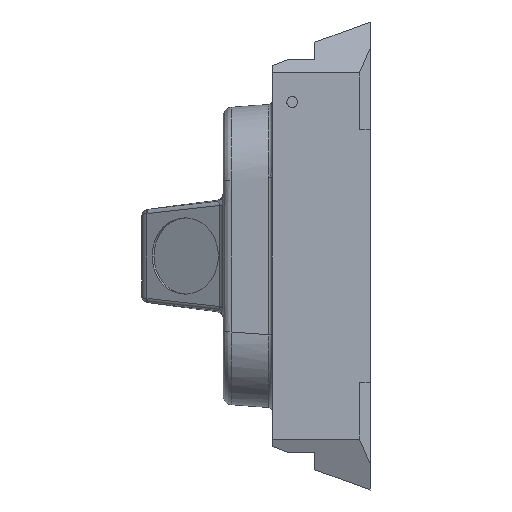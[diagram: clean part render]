
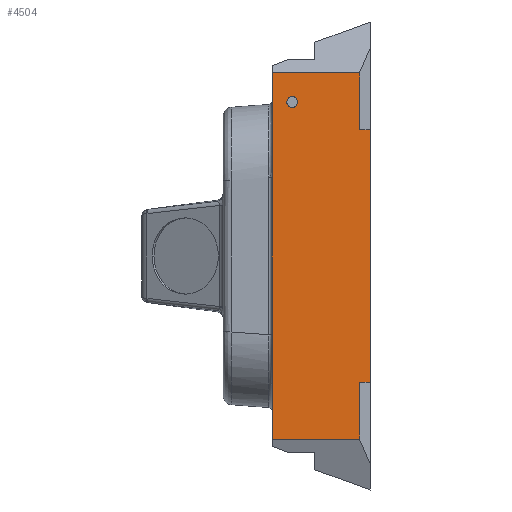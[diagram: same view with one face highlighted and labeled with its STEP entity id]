
A CAD part, left-side view. The second image highlights one B-rep face of the part: STEP entity #4504.
In plain terms, the highlighted planar face has unit normal (-1, 0, 0).
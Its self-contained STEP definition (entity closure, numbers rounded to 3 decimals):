
#55 = DIRECTION ( 'NONE',  ( 0., -1., 0. ) ) ;
#321 = FACE_OUTER_BOUND ( 'NONE', #1956, .T. ) ;
#335 = DIRECTION ( 'NONE',  ( 0., -1., 0. ) ) ;
#362 = CARTESIAN_POINT ( 'NONE',  ( 0., 3., -29.6 ) ) ;
#501 = VECTOR ( 'NONE', #4432, 1000. ) ;
#514 = AXIS2_PLACEMENT_3D ( 'NONE', #3684, #1960, #3796 ) ;
#550 = VERTEX_POINT ( 'NONE', #4840 ) ;
#567 = EDGE_CURVE ( 'NONE', #577, #7006, #4283, .T. ) ;
#576 = CIRCLE ( 'NONE', #6794, 1.5 ) ;
#577 = VERTEX_POINT ( 'NONE', #10305 ) ;
#748 = VERTEX_POINT ( 'NONE', #362 ) ;
#764 = ORIENTED_EDGE ( 'NONE', *, *, #8401, .T. ) ;
#813 = ORIENTED_EDGE ( 'NONE', *, *, #10660, .F. ) ;
#981 = CARTESIAN_POINT ( 'NONE',  ( 0., 3., -99. ) ) ;
#1181 = LINE ( 'NONE', #5532, #2370 ) ;
#1521 = VECTOR ( 'NONE', #55, 1000. ) ;
#1842 = DIRECTION ( 'NONE',  ( 0., 0., -1. ) ) ;
#1853 = AXIS2_PLACEMENT_3D ( 'NONE', #4276, #10134, #3452 ) ;
#1956 = EDGE_LOOP ( 'NONE', ( #813, #4216, #4981, #4100, #764, #7646, #2328, #2216 ) ) ;
#1960 = DIRECTION ( 'NONE',  ( -1., 0., 0. ) ) ;
#2086 = EDGE_LOOP ( 'NONE', ( #4208, #5298 ) ) ;
#2212 = CIRCLE ( 'NONE', #1853, 1.5 ) ;
#2216 = ORIENTED_EDGE ( 'NONE', *, *, #5502, .T. ) ;
#2328 = ORIENTED_EDGE ( 'NONE', *, *, #10651, .F. ) ;
#2370 = VECTOR ( 'NONE', #335, 1000. ) ;
#2525 = CARTESIAN_POINT ( 'NONE',  ( 0., 0., -99. ) ) ;
#2581 = CARTESIAN_POINT ( 'NONE',  ( 0., 0., -2.3 ) ) ;
#2808 = DIRECTION ( 'NONE',  ( 0., 0., 1. ) ) ;
#2961 = DIRECTION ( 'NONE',  ( 0., 0., 1. ) ) ;
#3155 = VECTOR ( 'NONE', #6686, 1000. ) ;
#3322 = EDGE_CURVE ( 'NONE', #7205, #9404, #1181, .T. ) ;
#3423 = LINE ( 'NONE', #7499, #1521 ) ;
#3425 = VECTOR ( 'NONE', #1842, 1000. ) ;
#3452 = DIRECTION ( 'NONE',  ( 0., 0., 1. ) ) ;
#3553 = EDGE_CURVE ( 'NONE', #550, #4774, #576, .T. ) ;
#3684 = CARTESIAN_POINT ( 'NONE',  ( 0., 0., 0. ) ) ;
#3796 = DIRECTION ( 'NONE',  ( 0., 0., 1. ) ) ;
#4006 = LINE ( 'NONE', #8314, #4249 ) ;
#4055 = VERTEX_POINT ( 'NONE', #4975 ) ;
#4100 = ORIENTED_EDGE ( 'NONE', *, *, #6414, .T. ) ;
#4208 = ORIENTED_EDGE ( 'NONE', *, *, #3553, .F. ) ;
#4216 = ORIENTED_EDGE ( 'NONE', *, *, #10049, .F. ) ;
#4249 = VECTOR ( 'NONE', #5117, 1000. ) ;
#4276 = CARTESIAN_POINT ( 'NONE',  ( 0., 21.5, -22. ) ) ;
#4283 = LINE ( 'NONE', #2581, #3425 ) ;
#4379 = LINE ( 'NONE', #10290, #4425 ) ;
#4425 = VECTOR ( 'NONE', #8630, 1000. ) ;
#4432 = DIRECTION ( 'NONE',  ( 0., 0., -1. ) ) ;
#4495 = CARTESIAN_POINT ( 'NONE',  ( 0., 3., -99. ) ) ;
#4497 = CARTESIAN_POINT ( 'NONE',  ( 0., 3., -14. ) ) ;
#4504 = ADVANCED_FACE ( 'NONE', ( #321, #6229 ), #9486, .T. ) ;
#4604 = DIRECTION ( 'NONE',  ( -1., 0., 0. ) ) ;
#4618 = CARTESIAN_POINT ( 'NONE',  ( 0., 27., -14. ) ) ;
#4671 = VERTEX_POINT ( 'NONE', #4495 ) ;
#4774 = VERTEX_POINT ( 'NONE', #4944 ) ;
#4840 = CARTESIAN_POINT ( 'NONE',  ( 0., 21.5, -20.5 ) ) ;
#4944 = CARTESIAN_POINT ( 'NONE',  ( 0., 21.5, -23.5 ) ) ;
#4975 = CARTESIAN_POINT ( 'NONE',  ( 0., 27., -114.6 ) ) ;
#4981 = ORIENTED_EDGE ( 'NONE', *, *, #567, .F. ) ;
#5117 = DIRECTION ( 'NONE',  ( 0., 1., 0. ) ) ;
#5298 = ORIENTED_EDGE ( 'NONE', *, *, #8568, .F. ) ;
#5502 = EDGE_CURVE ( 'NONE', #4055, #10213, #3423, .T. ) ;
#5515 = LINE ( 'NONE', #6336, #10748 ) ;
#5532 = CARTESIAN_POINT ( 'NONE',  ( 0., 58.5, -14. ) ) ;
#5975 = CARTESIAN_POINT ( 'NONE',  ( 0., 0., -29.6 ) ) ;
#6229 = FACE_BOUND ( 'NONE', #2086, .T. ) ;
#6336 = CARTESIAN_POINT ( 'NONE',  ( 0., 3., -29.6 ) ) ;
#6414 = EDGE_CURVE ( 'NONE', #577, #748, #6741, .T. ) ;
#6686 = DIRECTION ( 'NONE',  ( 0., 1., 0. ) ) ;
#6741 = LINE ( 'NONE', #5975, #3155 ) ;
#6794 = AXIS2_PLACEMENT_3D ( 'NONE', #8852, #4604, #2961 ) ;
#7006 = VERTEX_POINT ( 'NONE', #2525 ) ;
#7205 = VERTEX_POINT ( 'NONE', #4618 ) ;
#7499 = CARTESIAN_POINT ( 'NONE',  ( 0., 58.5, -114.6 ) ) ;
#7646 = ORIENTED_EDGE ( 'NONE', *, *, #3322, .F. ) ;
#7737 = LINE ( 'NONE', #981, #501 ) ;
#8314 = CARTESIAN_POINT ( 'NONE',  ( 0., 0., -99. ) ) ;
#8401 = EDGE_CURVE ( 'NONE', #748, #9404, #5515, .T. ) ;
#8568 = EDGE_CURVE ( 'NONE', #4774, #550, #2212, .T. ) ;
#8630 = DIRECTION ( 'NONE',  ( 0., 0., 1. ) ) ;
#8852 = CARTESIAN_POINT ( 'NONE',  ( 0., 21.5, -22. ) ) ;
#9404 = VERTEX_POINT ( 'NONE', #4497 ) ;
#9486 = PLANE ( 'NONE',  #514 ) ;
#10049 = EDGE_CURVE ( 'NONE', #7006, #4671, #4006, .T. ) ;
#10134 = DIRECTION ( 'NONE',  ( -1., 0., 0. ) ) ;
#10213 = VERTEX_POINT ( 'NONE', #10252 ) ;
#10252 = CARTESIAN_POINT ( 'NONE',  ( 0., 3., -114.6 ) ) ;
#10290 = CARTESIAN_POINT ( 'NONE',  ( 0., 27., -9.827 ) ) ;
#10305 = CARTESIAN_POINT ( 'NONE',  ( 0., 0., -29.6 ) ) ;
#10651 = EDGE_CURVE ( 'NONE', #4055, #7205, #4379, .T. ) ;
#10660 = EDGE_CURVE ( 'NONE', #4671, #10213, #7737, .T. ) ;
#10748 = VECTOR ( 'NONE', #2808, 1000. ) ;
